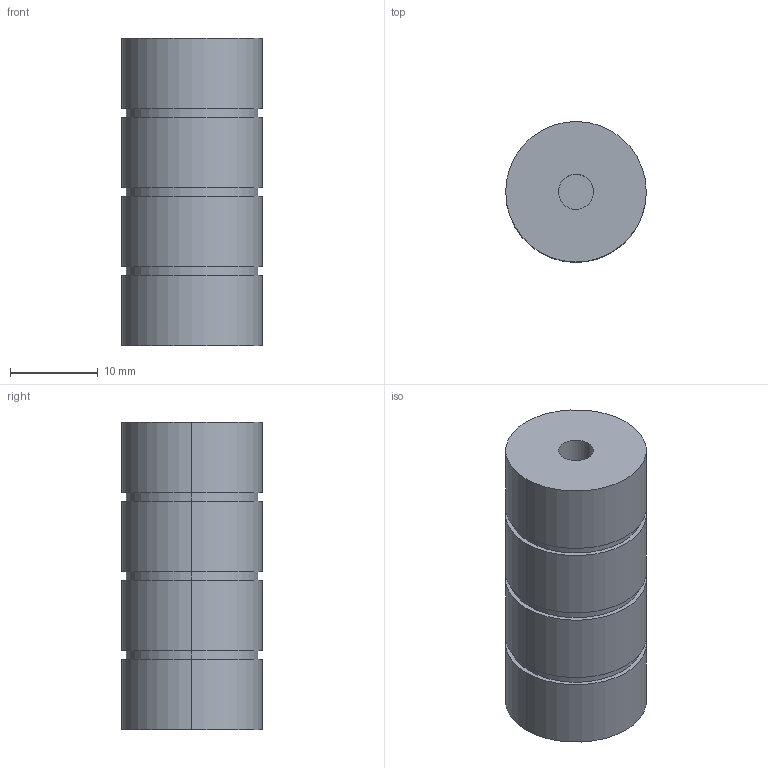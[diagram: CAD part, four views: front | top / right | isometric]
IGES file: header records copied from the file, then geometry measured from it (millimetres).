
Start section: 3D InterOp IGES (Version 24 0 1), Spatial Corp. Copyright (c) 1999-2007.
Global section: file name: embout tube petit.igs; native system: Spatial Corp.; preprocessor: 3D InterOp ACIS/IGES; author: Noname; organization: Noname; date: 20160209.175506; units: millimetre
Bounding box: 16 x 16 x 35 mm (x, y, z)
Volume: 6807 mm3; surface area: 2455.2 mm2
Topology: 1 solids, 1 shells, 25 faces, 48 edges, 32 vertices
Faces by surface type: cylinder 16, plane 9
